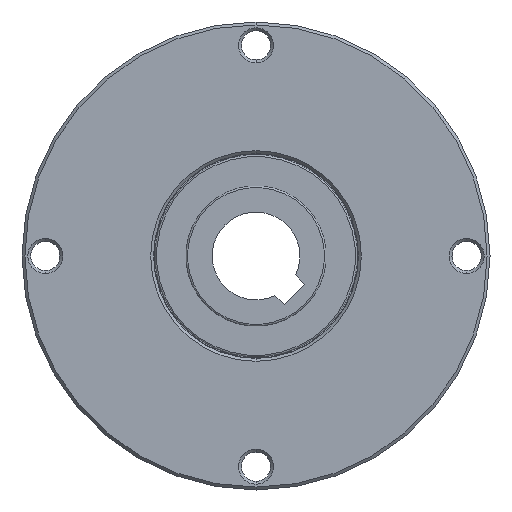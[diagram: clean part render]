
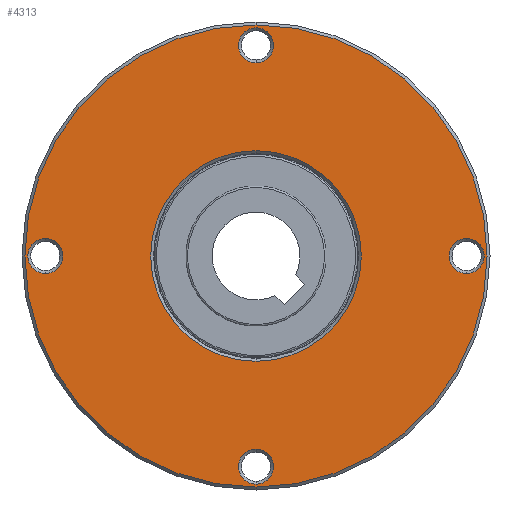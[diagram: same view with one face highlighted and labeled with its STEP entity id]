
A CAD part, front view. The second image highlights one B-rep face of the part: STEP entity #4313.
In plain terms, the highlighted planar face has unit normal (0, -1, 0).
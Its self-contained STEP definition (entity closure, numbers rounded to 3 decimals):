
#32 = VERTEX_POINT ( 'NONE', #3406 ) ;
#34 = EDGE_CURVE ( 'NONE', #357, #2216, #6027, .T. ) ;
#37 = FACE_BOUND ( 'NONE', #4876, .T. ) ;
#88 = DIRECTION ( 'NONE',  ( 0., 1., 0. ) ) ;
#129 = DIRECTION ( 'NONE',  ( 0., 0., -1. ) ) ;
#140 = ORIENTED_EDGE ( 'NONE', *, *, #1556, .T. ) ;
#161 = EDGE_LOOP ( 'NONE', ( #3813, #1613 ) ) ;
#178 = EDGE_CURVE ( 'NONE', #5407, #3732, #748, .T. ) ;
#190 = CIRCLE ( 'NONE', #1227, 3. ) ;
#193 = AXIS2_PLACEMENT_3D ( 'NONE', #4851, #1466, #2544 ) ;
#235 = VERTEX_POINT ( 'NONE', #5529 ) ;
#342 = AXIS2_PLACEMENT_3D ( 'NONE', #621, #4550, #1162 ) ;
#357 = VERTEX_POINT ( 'NONE', #4122 ) ;
#373 = EDGE_LOOP ( 'NONE', ( #5901, #1681 ) ) ;
#540 = CIRCLE ( 'NONE', #5740, 39.5 ) ;
#584 = DIRECTION ( 'NONE',  ( 0., 1., 0. ) ) ;
#621 = CARTESIAN_POINT ( 'NONE',  ( 36., -29.133, 0. ) ) ;
#748 = CIRCLE ( 'NONE', #4680, 3. ) ;
#868 = CARTESIAN_POINT ( 'NONE',  ( 0., -29.133, 33. ) ) ;
#872 = AXIS2_PLACEMENT_3D ( 'NONE', #1798, #5797, #2363 ) ;
#875 = DIRECTION ( 'NONE',  ( 0., 1., 0. ) ) ;
#1132 = DIRECTION ( 'NONE',  ( 0., 1., 0. ) ) ;
#1147 = DIRECTION ( 'NONE',  ( 0., 1., 0. ) ) ;
#1158 = FACE_BOUND ( 'NONE', #373, .T. ) ;
#1162 = DIRECTION ( 'NONE',  ( 0., 0., -1. ) ) ;
#1227 = AXIS2_PLACEMENT_3D ( 'NONE', #6887, #1132, #129 ) ;
#1231 = EDGE_CURVE ( 'NONE', #5198, #32, #190, .T. ) ;
#1326 = FACE_OUTER_BOUND ( 'NONE', #161, .T. ) ;
#1439 = DIRECTION ( 'NONE',  ( 0., 1., 0. ) ) ;
#1466 = DIRECTION ( 'NONE',  ( 0., 1., 0. ) ) ;
#1539 = CARTESIAN_POINT ( 'NONE',  ( 0., -29.133, 36. ) ) ;
#1556 = EDGE_CURVE ( 'NONE', #2216, #357, #6025, .T. ) ;
#1597 = DIRECTION ( 'NONE',  ( 0., -1., 0. ) ) ;
#1613 = ORIENTED_EDGE ( 'NONE', *, *, #3286, .T. ) ;
#1679 = CARTESIAN_POINT ( 'NONE',  ( 0., -29.133, 0. ) ) ;
#1681 = ORIENTED_EDGE ( 'NONE', *, *, #2507, .T. ) ;
#1754 = AXIS2_PLACEMENT_3D ( 'NONE', #3451, #88, #4023 ) ;
#1798 = CARTESIAN_POINT ( 'NONE',  ( 0., -29.133, 0. ) ) ;
#1877 = EDGE_CURVE ( 'NONE', #5115, #5127, #6542, .T. ) ;
#2056 = CIRCLE ( 'NONE', #3177, 3. ) ;
#2083 = CARTESIAN_POINT ( 'NONE',  ( 0., -29.133, -18. ) ) ;
#2105 = EDGE_CURVE ( 'NONE', #6055, #3693, #2461, .T. ) ;
#2182 = DIRECTION ( 'NONE',  ( 0., 0., -1. ) ) ;
#2211 = ORIENTED_EDGE ( 'NONE', *, *, #34, .T. ) ;
#2216 = VERTEX_POINT ( 'NONE', #2083 ) ;
#2225 = DIRECTION ( 'NONE',  ( 0., 1., 0. ) ) ;
#2247 = DIRECTION ( 'NONE',  ( 0., 0., -1. ) ) ;
#2249 = CARTESIAN_POINT ( 'NONE',  ( 0., -29.133, -39. ) ) ;
#2336 = EDGE_LOOP ( 'NONE', ( #140, #2211 ) ) ;
#2345 = EDGE_CURVE ( 'NONE', #3693, #6055, #2983, .T. ) ;
#2363 = DIRECTION ( 'NONE',  ( 0., 0., -1. ) ) ;
#2384 = CIRCLE ( 'NONE', #872, 39.5 ) ;
#2461 = CIRCLE ( 'NONE', #7118, 3. ) ;
#2507 = EDGE_CURVE ( 'NONE', #32, #5198, #4669, .T. ) ;
#2526 = CARTESIAN_POINT ( 'NONE',  ( 0., -29.133, 0. ) ) ;
#2544 = DIRECTION ( 'NONE',  ( 0., 0., -1. ) ) ;
#2640 = FACE_BOUND ( 'NONE', #4821, .T. ) ;
#2686 = CARTESIAN_POINT ( 'NONE',  ( 0., -29.133, -36. ) ) ;
#2835 = FACE_BOUND ( 'NONE', #2336, .T. ) ;
#2887 = AXIS2_PLACEMENT_3D ( 'NONE', #5650, #2225, #6217 ) ;
#2983 = CIRCLE ( 'NONE', #2887, 3. ) ;
#3177 = AXIS2_PLACEMENT_3D ( 'NONE', #4542, #1147, #5124 ) ;
#3239 = CARTESIAN_POINT ( 'NONE',  ( 0., -29.133, -39.5 ) ) ;
#3286 = EDGE_CURVE ( 'NONE', #4201, #235, #2384, .T. ) ;
#3354 = CARTESIAN_POINT ( 'NONE',  ( -36., -29.133, 3. ) ) ;
#3406 = CARTESIAN_POINT ( 'NONE',  ( 36., -29.133, 3. ) ) ;
#3451 = CARTESIAN_POINT ( 'NONE',  ( 0., -29.133, 36. ) ) ;
#3693 = VERTEX_POINT ( 'NONE', #3354 ) ;
#3732 = VERTEX_POINT ( 'NONE', #5658 ) ;
#3744 = CARTESIAN_POINT ( 'NONE',  ( 36., -29.133, -3. ) ) ;
#3813 = ORIENTED_EDGE ( 'NONE', *, *, #6324, .T. ) ;
#3864 = ORIENTED_EDGE ( 'NONE', *, *, #2345, .T. ) ;
#3866 = EDGE_CURVE ( 'NONE', #5127, #5115, #6683, .T. ) ;
#4023 = DIRECTION ( 'NONE',  ( 0., 0., -1. ) ) ;
#4122 = CARTESIAN_POINT ( 'NONE',  ( 0., -29.133, 18. ) ) ;
#4155 = FACE_BOUND ( 'NONE', #6942, .T. ) ;
#4201 = VERTEX_POINT ( 'NONE', #3239 ) ;
#4313 = ADVANCED_FACE ( 'NONE', ( #1326, #2835, #4155, #37, #2640, #1158 ), #4977, .T. ) ;
#4462 = AXIS2_PLACEMENT_3D ( 'NONE', #1539, #5404, #4750 ) ;
#4542 = CARTESIAN_POINT ( 'NONE',  ( 0., -29.133, -36. ) ) ;
#4550 = DIRECTION ( 'NONE',  ( 0., 1., 0. ) ) ;
#4594 = CARTESIAN_POINT ( 'NONE',  ( -36., -29.133, -3. ) ) ;
#4669 = CIRCLE ( 'NONE', #342, 3. ) ;
#4680 = AXIS2_PLACEMENT_3D ( 'NONE', #2686, #1439, #5978 ) ;
#4750 = DIRECTION ( 'NONE',  ( 0., 0., -1. ) ) ;
#4821 = EDGE_LOOP ( 'NONE', ( #7195, #5804 ) ) ;
#4851 = CARTESIAN_POINT ( 'NONE',  ( 0., -29.133, 0. ) ) ;
#4876 = EDGE_LOOP ( 'NONE', ( #5109, #3864 ) ) ;
#4902 = EDGE_CURVE ( 'NONE', #3732, #5407, #2056, .T. ) ;
#4977 = PLANE ( 'NONE',  #7057 ) ;
#5010 = CARTESIAN_POINT ( 'NONE',  ( -40., -29.133, 0. ) ) ;
#5109 = ORIENTED_EDGE ( 'NONE', *, *, #2105, .T. ) ;
#5115 = VERTEX_POINT ( 'NONE', #5378 ) ;
#5124 = DIRECTION ( 'NONE',  ( 0., 0., -1. ) ) ;
#5127 = VERTEX_POINT ( 'NONE', #868 ) ;
#5198 = VERTEX_POINT ( 'NONE', #3744 ) ;
#5226 = ORIENTED_EDGE ( 'NONE', *, *, #178, .T. ) ;
#5290 = CARTESIAN_POINT ( 'NONE',  ( -36., -29.133, 0. ) ) ;
#5378 = CARTESIAN_POINT ( 'NONE',  ( 0., -29.133, 39. ) ) ;
#5404 = DIRECTION ( 'NONE',  ( 0., 1., 0. ) ) ;
#5407 = VERTEX_POINT ( 'NONE', #2249 ) ;
#5529 = CARTESIAN_POINT ( 'NONE',  ( 0., -29.133, 39.5 ) ) ;
#5581 = DIRECTION ( 'NONE',  ( 0., 0., -1. ) ) ;
#5650 = CARTESIAN_POINT ( 'NONE',  ( -36., -29.133, 0. ) ) ;
#5658 = CARTESIAN_POINT ( 'NONE',  ( 0., -29.133, -33. ) ) ;
#5673 = DIRECTION ( 'NONE',  ( 0., -1., 0. ) ) ;
#5740 = AXIS2_PLACEMENT_3D ( 'NONE', #1679, #5673, #2247 ) ;
#5797 = DIRECTION ( 'NONE',  ( 0., -1., 0. ) ) ;
#5804 = ORIENTED_EDGE ( 'NONE', *, *, #1877, .T. ) ;
#5840 = DIRECTION ( 'NONE',  ( 0., 0., -1. ) ) ;
#5901 = ORIENTED_EDGE ( 'NONE', *, *, #1231, .T. ) ;
#5978 = DIRECTION ( 'NONE',  ( 0., 0., -1. ) ) ;
#6025 = CIRCLE ( 'NONE', #193, 18. ) ;
#6027 = CIRCLE ( 'NONE', #6917, 18. ) ;
#6055 = VERTEX_POINT ( 'NONE', #4594 ) ;
#6217 = DIRECTION ( 'NONE',  ( 0., 0., -1. ) ) ;
#6324 = EDGE_CURVE ( 'NONE', #235, #4201, #540, .T. ) ;
#6542 = CIRCLE ( 'NONE', #4462, 3. ) ;
#6594 = ORIENTED_EDGE ( 'NONE', *, *, #4902, .T. ) ;
#6683 = CIRCLE ( 'NONE', #1754, 3. ) ;
#6887 = CARTESIAN_POINT ( 'NONE',  ( 36., -29.133, 0. ) ) ;
#6917 = AXIS2_PLACEMENT_3D ( 'NONE', #2526, #584, #2182 ) ;
#6942 = EDGE_LOOP ( 'NONE', ( #5226, #6594 ) ) ;
#7057 = AXIS2_PLACEMENT_3D ( 'NONE', #5010, #1597, #5581 ) ;
#7118 = AXIS2_PLACEMENT_3D ( 'NONE', #5290, #875, #5840 ) ;
#7195 = ORIENTED_EDGE ( 'NONE', *, *, #3866, .T. ) ;
